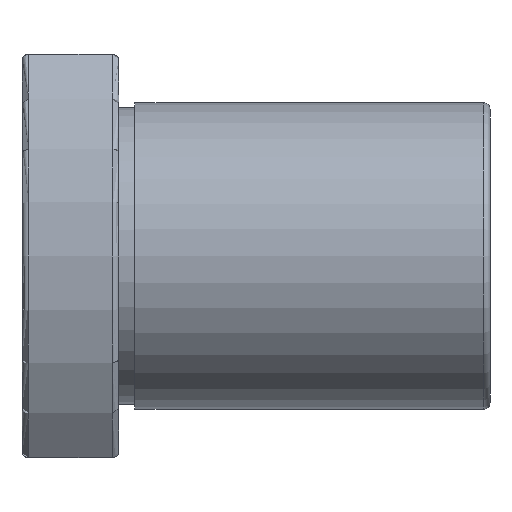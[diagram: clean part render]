
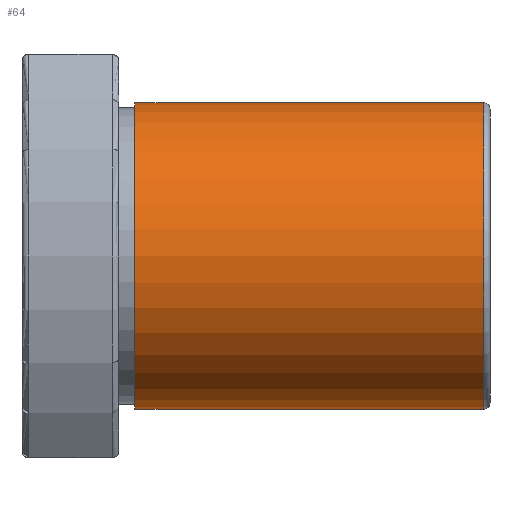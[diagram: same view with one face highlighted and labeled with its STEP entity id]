
A CAD part, front view. The second image highlights one B-rep face of the part: STEP entity #64.
In plain terms, the highlighted cylindrical face has radius 9.5 mm (diameter 19 mm), a full revolution.
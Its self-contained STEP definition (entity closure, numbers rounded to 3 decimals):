
#64 = ADVANCED_FACE( '', ( #148, #149 ), #150, .T. );
#148 = FACE_OUTER_BOUND( '', #267, .T. );
#149 = FACE_OUTER_BOUND( '', #268, .T. );
#150 = CYLINDRICAL_SURFACE( '', #269, 9.5 );
#267 = EDGE_LOOP( '', ( #399 ) );
#268 = EDGE_LOOP( '', ( #400 ) );
#269 = AXIS2_PLACEMENT_3D( '', #401, #402, #403 );
#399 = ORIENTED_EDGE( '', *, *, #596, .F. );
#400 = ORIENTED_EDGE( '', *, *, #597, .T. );
#401 = CARTESIAN_POINT( '', ( 17.4, 0., 0. ) );
#402 = DIRECTION( '', ( -1., 0., 0. ) );
#403 = DIRECTION( '', ( 0., 1., 0. ) );
#596 = EDGE_CURVE( '', #685, #685, #686, .F. );
#597 = EDGE_CURVE( '', #687, #687, #688, .F. );
#685 = VERTEX_POINT( '', #813 );
#686 = CIRCLE( '', #814, 9.5 );
#687 = VERTEX_POINT( '', #815 );
#688 = CIRCLE( '', #816, 9.5 );
#813 = CARTESIAN_POINT( '', ( 7., 0., -9.5 ) );
#814 = AXIS2_PLACEMENT_3D( '', #953, #954, #955 );
#815 = CARTESIAN_POINT( '', ( 28.6, 9.5, 0. ) );
#816 = AXIS2_PLACEMENT_3D( '', #956, #957, #958 );
#953 = CARTESIAN_POINT( '', ( 7., 0., 0. ) );
#954 = DIRECTION( '', ( 1., 0., 0. ) );
#955 = DIRECTION( '', ( 0., 0., -1. ) );
#956 = CARTESIAN_POINT( '', ( 28.6, 0., 0. ) );
#957 = DIRECTION( '', ( 1., 0., 0. ) );
#958 = DIRECTION( '', ( 0., 0., -1. ) );
